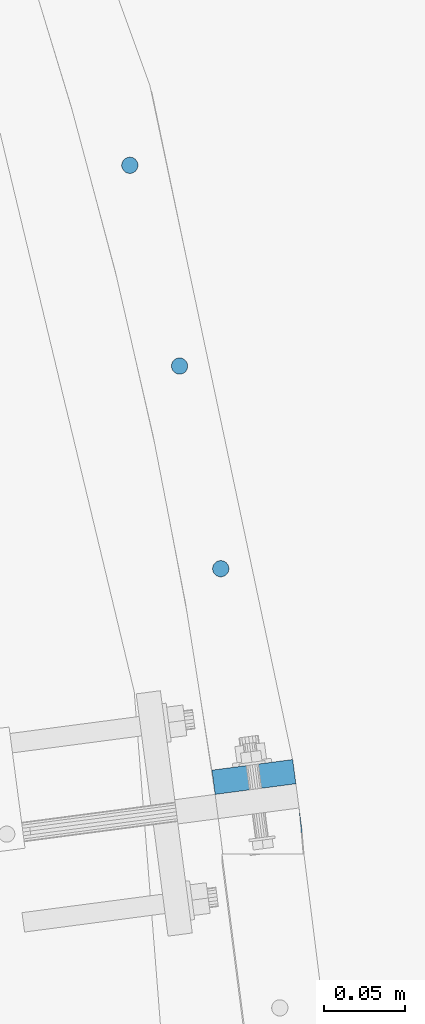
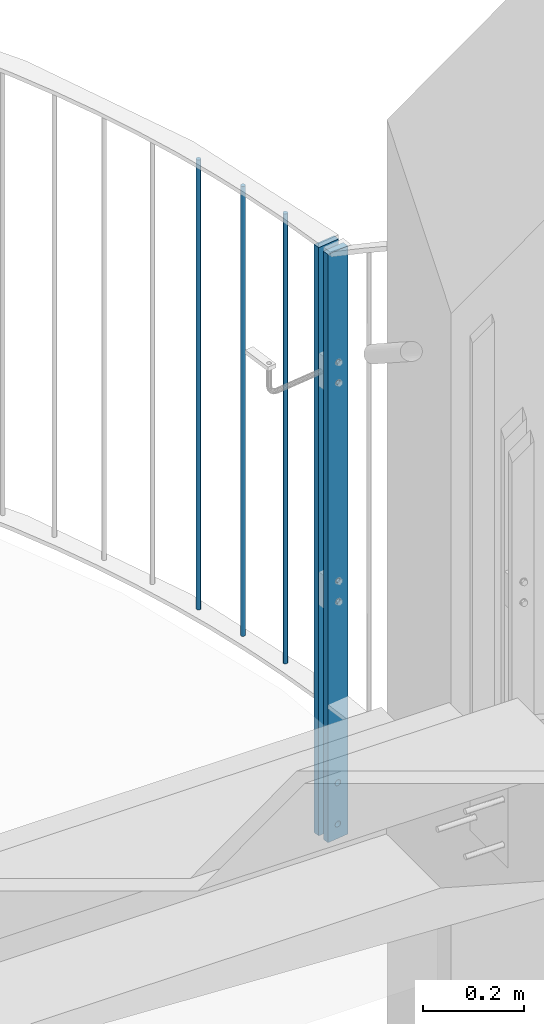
# One storey, part 89 of 296: 5 columns, 12 openings.
"""IFC2X3 building model written with IfcOpenShell, lengths in millimetres."""

from ifc_helpers import new_model, entity, si_unit, converted_unit, frame, frame_2d, origin, origin_with_axes, origin_2d, place, context, project, spatial, rectangle, circle, extrude, material, element, save


model = new_model("IFC2X3")

# Units and contexts
model_context = context("Model", 3, precision=1e-09, world=origin_with_axes())
ifc_project = project(units=[si_unit("LENGTHUNIT", "METRE", prefix="MILLI"), si_unit("AREAUNIT", "SQUARE_METRE"), si_unit("VOLUMEUNIT", "CUBIC_METRE"), converted_unit("PLANEANGLEUNIT", "DEGREE", entity("IfcPlaneAngleMeasure", 0.01745329), si_unit("PLANEANGLEUNIT", "RADIAN"), dimensions=[0, 0, 0, 0, 0, 0, 0])], contexts=[model_context])

# Site, building, storey
site_placement = place(None, origin_with_axes())
site = spatial("IfcSite", under=ifc_project, at=site_placement, Name="TZD-S?d | Treppenhausgel?nder", CompositionType="ELEMENT")
building_placement = place(site_placement, origin_with_axes())
building = spatial("IfcBuilding", under=site, at=building_placement, Name="Struktur 1", CompositionType="ELEMENT")
storey_placement = place(building_placement, origin_with_axes())
storey = spatial("IfcBuildingStorey", under=building, at=storey_placement, Name="Default Storey", CompositionType="ELEMENT", Elevation=0.0)

# Columns
ifc_material = material(Name="S235JR")
for number, where, z_axis, x_axis in (
    (1, (5867.115279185, 432.965487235, 7350.0), (0.0, 0.0, -1.0), (0.0, 1.0, 0.0)),
    (2, (5841.837700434, 557.381027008, 7350.0), (0.0, 0.0, -1.0), (0.0, 1.0, 0.0)),
    (3, (5811.30133172, 680.611350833, 7350.0), (0.0, 0.0, -1.0), (0.0, 1.0, 0.0)),
):
    element("IfcColumn", number, at=place(None, frame(where, z_axis=z_axis, x_axis=x_axis)), inside=storey, material=ifc_material, Name="-", ObjectType="-", context=model_context, shape_type="SweptSolid", body=[
        extrude(circle(Radius=5.0, at=origin_2d()), origin(), (0.0, 0.0, -1.0), 1090.0),
    ])

# Column, openings
column_1_placement = place(None, frame((5891.378028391, 275.401641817, 7015.001), z_axis=(0.0, 0.0, -1.0), x_axis=(-0.130526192, 0.991444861, 0.0)))
column_1 = element("IfcColumn", 4, at=column_1_placement, inside=storey, material=ifc_material, Name="-", ObjectType="-", context=model_context, shape_type="SweptSolid", body=[
    extrude(rectangle(XDim=15.0, YDim=50.0, at=origin_2d()), origin(), (0.0, 0.0, -1.0), 1424.999),
])
opening_1_placement = place(column_1_placement, frame((8.0, 7.001, -135.0), z_axis=(1.0, 0.0, 0.0), x_axis=(0.0, 1.0, 0.0)))
element("IfcOpeningElement", 5, at=opening_1_placement, cuts=column_1, ObjectType="Opening", context=model_context, shape_type="SweptSolid", body=[
    extrude(circle(Radius=7.001, at=frame_2d((-7.001, 0.0), x_axis=(1.0, 0.0))), origin(), (0.0, 0.0, -1.0), 16.0),
])
opening_2_placement = place(column_1_placement, frame((8.0, 7.001, -35.0), z_axis=(1.0, 0.0, 0.0), x_axis=(0.0, 1.0, 0.0)))
element("IfcOpeningElement", 6, at=opening_2_placement, cuts=column_1, ObjectType="Opening", context=model_context, shape_type="SweptSolid", body=[
    extrude(circle(Radius=7.001, at=frame_2d((-7.001, 0.0), x_axis=(1.0, 0.0))), origin(), (0.0, 0.0, -1.0), 16.0),
])
opening_3_placement = place(column_1_placement, frame((8.0, 5.001, -624.999999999), z_axis=(1.0, 0.0, 0.0), x_axis=(0.0, 1.0, 0.0)))
element("IfcOpeningElement", 7, at=opening_3_placement, cuts=column_1, ObjectType="Opening", context=model_context, shape_type="SweptSolid", body=[
    extrude(circle(Radius=5.001, at=frame_2d((-5.001, 0.0), x_axis=(1.0, 0.0))), origin(), (0.0, 0.0, -1.0), 16.0),
])
opening_4_placement = place(column_1_placement, frame((8.0, 5.001, -574.999999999), z_axis=(1.0, 0.0, 0.0), x_axis=(0.0, 1.0, 0.0)))
element("IfcOpeningElement", 8, at=opening_4_placement, cuts=column_1, ObjectType="Opening", context=model_context, shape_type="SweptSolid", body=[
    extrude(circle(Radius=5.001, at=frame_2d((-5.001, 0.0), x_axis=(1.0, 0.0))), origin(), (0.0, 0.0, -1.0), 16.0),
])
opening_5_placement = place(column_1_placement, frame((8.0, 5.001, -1154.999999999), z_axis=(1.0, 0.0, 0.0), x_axis=(0.0, 1.0, 0.0)))
element("IfcOpeningElement", 9, at=opening_5_placement, cuts=column_1, ObjectType="Opening", context=model_context, shape_type="SweptSolid", body=[
    extrude(circle(Radius=5.001, at=frame_2d((-5.001, 0.0), x_axis=(1.0, 0.0))), origin(), (0.0, 0.0, -1.0), 16.0),
])
opening_6_placement = place(column_1_placement, frame((8.0, 5.001, -1104.999999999), z_axis=(1.0, 0.0, 0.0), x_axis=(0.0, 1.0, 0.0)))
element("IfcOpeningElement", 10, at=opening_6_placement, cuts=column_1, ObjectType="Opening", context=model_context, shape_type="SweptSolid", body=[
    extrude(circle(Radius=5.001, at=frame_2d((-5.001, 0.0), x_axis=(1.0, 0.0))), origin(), (0.0, 0.0, -1.0), 16.0),
])

column_2_placement = place(None, frame((5887.462242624, 305.144987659, 7015.001), z_axis=(0.0, 0.0, 1.0), x_axis=(0.130526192, -0.991444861, 0.0)))
column_2 = element("IfcColumn", 11, at=column_2_placement, inside=storey, material=ifc_material, Name="-", ObjectType="-", context=model_context, shape_type="SweptSolid", body=[
    extrude(rectangle(XDim=15.0, YDim=50.0, at=origin_2d()), origin(), (0.0, 0.0, 1.0), 1424.999),
])
opening_7_placement = place(column_2_placement, frame((-8.0, 5.001, 624.999999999), z_axis=(-1.0, 0.0, 0.0), x_axis=(0.0, -1.0, 0.0)))
element("IfcOpeningElement", 12, at=opening_7_placement, cuts=column_2, ObjectType="Opening", context=model_context, shape_type="SweptSolid", body=[
    extrude(circle(Radius=5.001, at=frame_2d((5.001, 0.0), x_axis=(1.0, 0.0))), origin(), (0.0, 0.0, -1.0), 16.0),
])
opening_8_placement = place(column_2_placement, frame((-8.0, 5.001, 574.999999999), z_axis=(-1.0, 0.0, 0.0), x_axis=(0.0, -1.0, 0.0)))
element("IfcOpeningElement", 13, at=opening_8_placement, cuts=column_2, ObjectType="Opening", context=model_context, shape_type="SweptSolid", body=[
    extrude(circle(Radius=5.001, at=frame_2d((5.001, 0.0), x_axis=(1.0, 0.0))), origin(), (0.0, 0.0, -1.0), 16.0),
])
opening_9_placement = place(column_2_placement, frame((-8.0, 7.001, 135.0), z_axis=(-1.0, 0.0, 0.0), x_axis=(0.0, -1.0, 0.0)))
element("IfcOpeningElement", 14, at=opening_9_placement, cuts=column_2, ObjectType="Opening", context=model_context, shape_type="SweptSolid", body=[
    extrude(circle(Radius=7.001, at=frame_2d((7.001, 0.0), x_axis=(1.0, 0.0))), origin(), (0.0, 0.0, -1.0), 16.0),
])
opening_10_placement = place(column_2_placement, frame((-8.0, 7.001, 35.0), z_axis=(-1.0, 0.0, 0.0), x_axis=(0.0, -1.0, 0.0)))
element("IfcOpeningElement", 15, at=opening_10_placement, cuts=column_2, ObjectType="Opening", context=model_context, shape_type="SweptSolid", body=[
    extrude(circle(Radius=7.001, at=frame_2d((7.001, 0.0), x_axis=(1.0, 0.0))), origin(), (0.0, 0.0, -1.0), 16.0),
])
opening_11_placement = place(column_2_placement, frame((-8.0, 5.001, 1154.999999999), z_axis=(-1.0, 0.0, 0.0), x_axis=(0.0, -1.0, 0.0)))
element("IfcOpeningElement", 16, at=opening_11_placement, cuts=column_2, ObjectType="Opening", context=model_context, shape_type="SweptSolid", body=[
    extrude(circle(Radius=5.001, at=frame_2d((5.001, 0.0), x_axis=(1.0, 0.0))), origin(), (0.0, 0.0, -1.0), 16.0),
])
opening_12_placement = place(column_2_placement, frame((-8.0, 5.001, 1104.999999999), z_axis=(-1.0, 0.0, 0.0), x_axis=(0.0, -1.0, 0.0)))
element("IfcOpeningElement", 17, at=opening_12_placement, cuts=column_2, ObjectType="Opening", context=model_context, shape_type="SweptSolid", body=[
    extrude(circle(Radius=5.001, at=frame_2d((5.001, 0.0), x_axis=(1.0, 0.0))), origin(), (0.0, 0.0, -1.0), 16.0),
])

save(model, "model.ifc")
